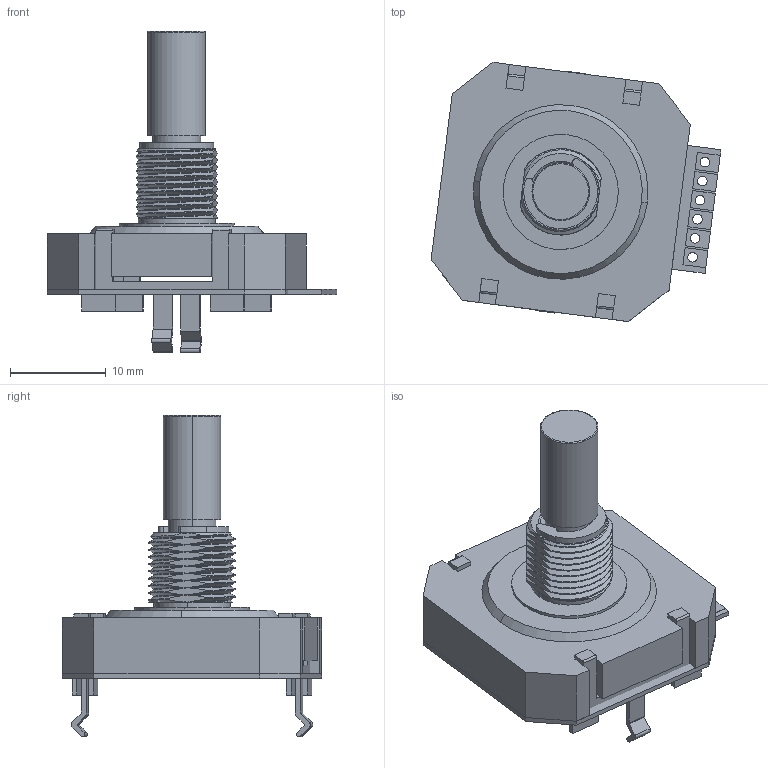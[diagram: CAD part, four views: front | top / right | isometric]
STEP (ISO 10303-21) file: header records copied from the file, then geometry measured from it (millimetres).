
FILE_DESCRIPTION (( 'STEP AP214' ), '1' );
FILE_NAME ('MRXCT50.STEP', '2011-12-09T14:56:41', ( ' ' ), ( ' ' ), 'SwSTEP 2.0', 'SolidWorks 2007', '' );
FILE_SCHEMA (( 'AUTOMOTIVE_DESIGN' ));
Length unit declared in the file: millimetre
Products named in the file (9): Klammer_Standard; GehäuseMRXCT50_Standard; KlammerKomplett_Standard; Häkchen_Standard; 6mm Sicherungsring_B27.8M - 3FM1-6; LeiterplatteMRXCT_Standard; 01_Busching_MAB25_01; MRXCT50; WelleMRXCTXXXX_Standard
Assembly tree (9 placements, depth 3):
  MRXCT50
    6mm Sicherungsring_B27.8M - 3FM1-6
    LeiterplatteMRXCT_Standard
    GehäuseMRXCT50_Standard
    KlammerKomplett_Standard  x2
      Häkchen_Standard
      Klammer_Standard
    WelleMRXCTXXXX_Standard
    01_Busching_MAB25_01
Bounding box: 30.2 x 27.01 x 33.48 mm (x, y, z)
Volume: 2518.5 mm3; surface area: 4592.4 mm2
Topology: 9 solids, 9 shells, 348 faces, 939 edges, 613 vertices
Faces by surface type: plane 207, cylinder 69, bspline 62, cone 8, torus 2
Entity records: 39370 total; most frequent: CARTESIAN_POINT 31283, ORIENTED_EDGE 1656, DIRECTION 1195, EDGE_CURVE 828, VERTEX_POINT 539, VECTOR 475, LINE 475, AXIS2_PLACEMENT_3D 360
